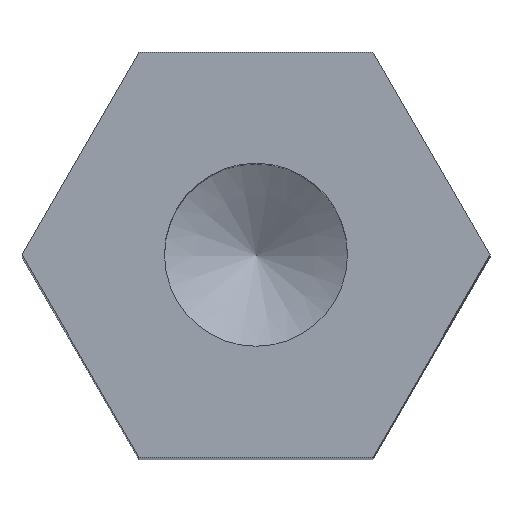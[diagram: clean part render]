
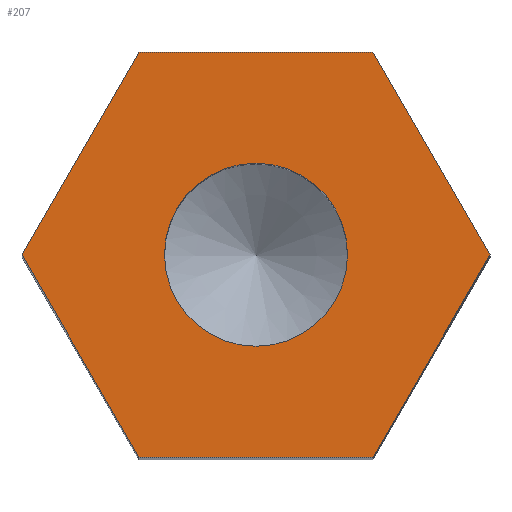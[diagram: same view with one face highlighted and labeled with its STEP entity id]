
A CAD part, top view. The second image highlights one B-rep face of the part: STEP entity #207.
In plain terms, the highlighted planar face has unit normal (0, 0, 1).
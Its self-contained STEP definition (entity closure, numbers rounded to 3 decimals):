
#19=FACE_BOUND('',#55,.T.);
#28=PLANE('',#238);
#42=FACE_OUTER_BOUND('',#54,.T.);
#54=EDGE_LOOP('',(#182,#183,#184,#185,#186,#187));
#55=EDGE_LOOP('',(#188));
#63=LINE('',#325,#84);
#66=LINE('',#331,#87);
#69=LINE('',#337,#90);
#72=LINE('',#343,#93);
#75=LINE('',#349,#96);
#78=LINE('',#353,#99);
#84=VECTOR('',#268,10.);
#87=VECTOR('',#273,10.);
#90=VECTOR('',#278,10.);
#93=VECTOR('',#283,10.);
#96=VECTOR('',#288,10.);
#99=VECTOR('',#293,10.);
#101=CIRCLE('',#227,1.265);
#106=VERTEX_POINT('',#308);
#111=VERTEX_POINT('',#322);
#112=VERTEX_POINT('',#324);
#114=VERTEX_POINT('',#330);
#116=VERTEX_POINT('',#336);
#118=VERTEX_POINT('',#342);
#120=VERTEX_POINT('',#348);
#123=EDGE_CURVE('',#106,#106,#101,.T.);
#130=EDGE_CURVE('',#112,#111,#63,.T.);
#133=EDGE_CURVE('',#114,#112,#66,.T.);
#136=EDGE_CURVE('',#116,#114,#69,.T.);
#139=EDGE_CURVE('',#118,#116,#72,.T.);
#142=EDGE_CURVE('',#120,#118,#75,.T.);
#145=EDGE_CURVE('',#111,#120,#78,.T.);
#182=ORIENTED_EDGE('',*,*,#145,.T.);
#183=ORIENTED_EDGE('',*,*,#142,.T.);
#184=ORIENTED_EDGE('',*,*,#139,.T.);
#185=ORIENTED_EDGE('',*,*,#136,.T.);
#186=ORIENTED_EDGE('',*,*,#133,.T.);
#187=ORIENTED_EDGE('',*,*,#130,.T.);
#188=ORIENTED_EDGE('',*,*,#123,.T.);
#207=ADVANCED_FACE('',(#42,#19),#28,.T.);
#227=AXIS2_PLACEMENT_3D('',#309,#252,#253);
#238=AXIS2_PLACEMENT_3D('',#354,#294,#295);
#252=DIRECTION('center_axis',(0.,0.,-1.));
#253=DIRECTION('ref_axis',(1.,0.,0.));
#268=DIRECTION('',(-0.5,0.866,0.));
#273=DIRECTION('',(0.5,0.866,0.));
#278=DIRECTION('',(1.,0.,0.));
#283=DIRECTION('',(0.5,-0.866,0.));
#288=DIRECTION('',(-0.5,-0.866,0.));
#293=DIRECTION('',(-1.,0.,0.));
#294=DIRECTION('center_axis',(0.,0.,1.));
#295=DIRECTION('ref_axis',(1.,0.,0.));
#308=CARTESIAN_POINT('',(-1.265,0.,20.));
#309=CARTESIAN_POINT('Origin',(0.,0.,20.));
#322=CARTESIAN_POINT('',(1.617,2.8,20.));
#324=CARTESIAN_POINT('',(3.233,0.,20.));
#325=CARTESIAN_POINT('',(3.233,0.,20.));
#330=CARTESIAN_POINT('',(1.617,-2.8,20.));
#331=CARTESIAN_POINT('',(1.617,-2.8,20.));
#336=CARTESIAN_POINT('',(-1.617,-2.8,20.));
#337=CARTESIAN_POINT('',(-1.617,-2.8,20.));
#342=CARTESIAN_POINT('',(-3.233,0.,20.));
#343=CARTESIAN_POINT('',(-3.233,0.,20.));
#348=CARTESIAN_POINT('',(-1.617,2.8,20.));
#349=CARTESIAN_POINT('',(-1.617,2.8,20.));
#353=CARTESIAN_POINT('',(1.617,2.8,20.));
#354=CARTESIAN_POINT('Origin',(0.,0.,20.));
